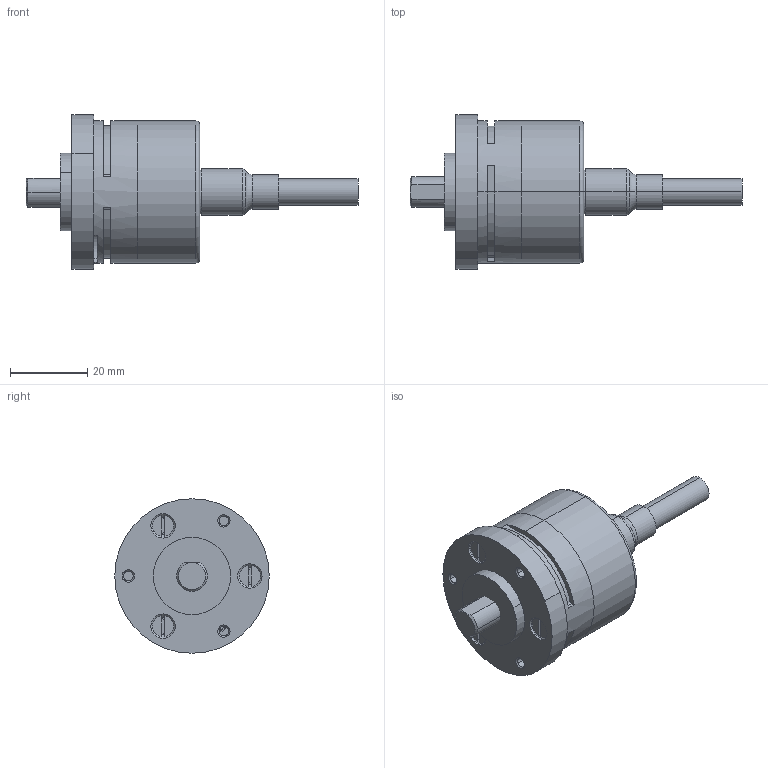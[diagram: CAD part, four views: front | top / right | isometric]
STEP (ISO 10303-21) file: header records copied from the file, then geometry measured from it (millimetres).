
FILE_DESCRIPTION (( 'STEP AP214' ), '1' );
FILE_NAME ('3700.A6X1.XXXX.STEP', '2008-11-25T09:00:36', ( 'admin' ), ( 'Fritz Kübler GmbH' ), 'SwSTEP 2.0', 'SolidWorks 2008', '' );
FILE_SCHEMA (( 'AUTOMOTIVE_DESIGN' ));
Length unit declared in the file: millimetre
Products named in the file (1): 3700.A6X1.XXXX
Bounding box: 86 x 40 x 40 mm (x, y, z)
Volume: 21148.6 mm3; surface area: 20488.3 mm2
Topology: 9 solids, 9 shells, 554 faces, 1316 edges, 795 vertices
Faces by surface type: cylinder 233, plane 137, torus 86, cone 46, bspline 27, sphere 25
Entity records: 23035 total; most frequent: CARTESIAN_POINT 4001, DIRECTION 2902, ORIENTED_EDGE 2586, EDGE_CURVE 1293, AXIS2_PLACEMENT_3D 1229, VERTEX_POINT 785, CIRCLE 701, EDGE_LOOP 602
